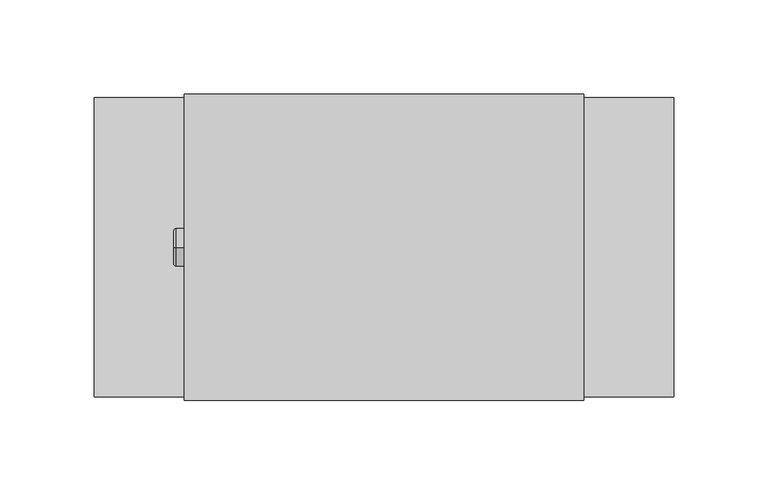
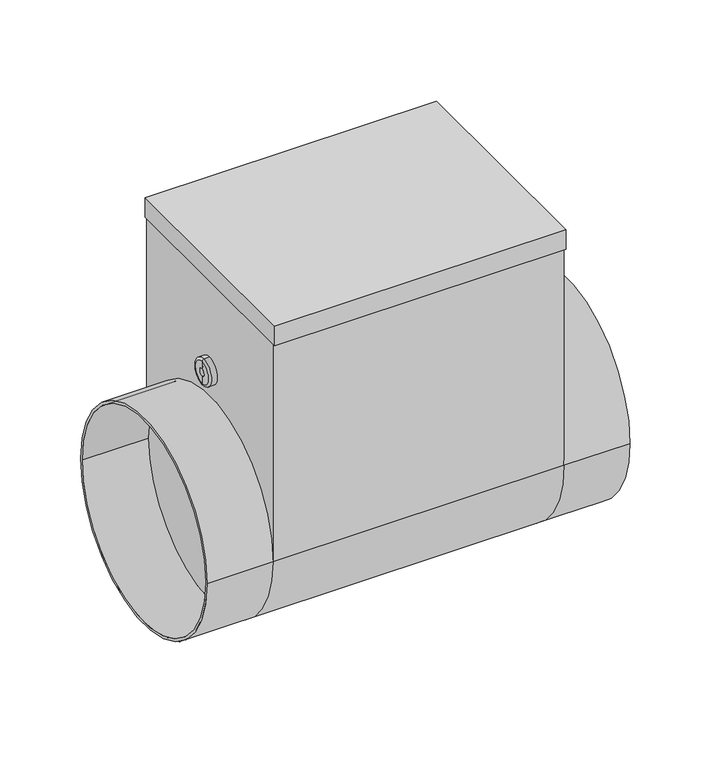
"""IFC4 building model written with IfcOpenShell, lengths in millimetres: proxy geometry, СВ_ВоздухонагревательЭлектрический_КанальныйКруглый_DN100-315_SKH-E : SKH-E-160/4,5."""

from ifc_helpers import new_model, si_unit, point, frame, origin, place, context, project, spatial, polyline, circle_curve, ellipse_curve, trimmed, outline, extrude, source, transform, mapped, element, save
from ifc_brep_helpers import plane_surface, cylinder_surface, revolved_surface, advanced_brep


def mechanical_equipment_b121b456(model_context):
    return source(origin(), model_context, "Body", "SolidModel", [
        extrude(outline(polyline([(106.0, -81.5), (-106.0, -81.5), (-106.0, 81.5), (106.0, 81.5), (106.0, -81.5)])), frame((0.0, 0.0, 167.5), z_axis=(0.0, 0.0, 1.0), x_axis=(1.0, 0.0, 0.0)), (0.0, 0.0, 1.0), 15.0),
        advanced_brep(
        [(-154.0, -79.5, 0.0), (-154.0, 79.5, 0.0), (-154.0, -77.5, 0.0), (-154.0, 77.5, 0.0), (-106.0, 77.5, 0.0), (-106.0, -77.5, 0.0), (-106.0, 79.5, 0.0), (-106.0, -79.5, 0.0), (106.0, -77.5, 0.0), (106.0, 77.5, 0.0), (106.0, -79.5, 167.5), (106.0, -79.5, 0.0), (106.0, 79.5, 0.0), (106.0, 79.5, 167.5), (-106.0, -79.5, 167.5), (-106.0, 79.5, 167.5), (154.0, -79.5, 0.0), (154.0, 79.5, 0.0), (154.0, -77.5, 0.0), (154.0, 77.5, 0.0)],
        [
            (0, 1, circle_curve(frame((-154.0, 0.0, 0.0), z_axis=(-1.0, 0.0, 0.0), x_axis=(0.0, 1.0, 0.0)), 79.5)),
            (1, 0, circle_curve(frame((-154.0, 0.0, 0.0), z_axis=(-1.0, 0.0, 0.0), x_axis=(0.0, 1.0, 0.0)), 79.5)),
            (2, 3, circle_curve(frame((-154.0, 0.0, 0.0), z_axis=(1.0, 0.0, 0.0), x_axis=(0.0, 1.0, 0.0)), 77.5)),
            (3, 2, circle_curve(frame((-154.0, 0.0, 0.0), z_axis=(1.0, 0.0, 0.0), x_axis=(0.0, 1.0, 0.0)), 77.5)),
            (3, 4),
            (4, 5, circle_curve(frame((-106.0, 0.0, 0.0), z_axis=(1.0, 0.0, 0.0), x_axis=(0.0, 1.0, 0.0)), 77.5)),
            (5, 2),
            (5, 4, circle_curve(frame((-106.0, 0.0, 0.0), z_axis=(1.0, 0.0, 0.0), x_axis=(0.0, 1.0, 0.0)), 77.5)),
            (1, 6),
            (6, 7, circle_curve(frame((-106.0, 0.0, 0.0), z_axis=(-1.0, 0.0, 0.0), x_axis=(0.0, 1.0, 0.0)), 79.5)),
            (7, 0),
            (7, 6, circle_curve(frame((-106.0, 0.0, 0.0), z_axis=(-1.0, 0.0, 0.0), x_axis=(0.0, 1.0, 0.0)), 79.5)),
            (8, 9, circle_curve(frame((106.0, 0.0, 0.0), z_axis=(1.0, 0.0, 0.0), x_axis=(0.0, 1.0, 0.0)), 77.5)),
            (9, 8, circle_curve(frame((106.0, 0.0, 0.0), z_axis=(1.0, 0.0, 0.0), x_axis=(0.0, 1.0, 0.0)), 77.5)),
            (10, 11),
            (11, 12, circle_curve(frame((106.0, 0.0, 0.0), z_axis=(-1.0, 0.0, 0.0), x_axis=(0.0, 1.0, 0.0)), 79.5)),
            (12, 13),
            (13, 10),
            (7, 14),
            (14, 15),
            (15, 6),
            (6, 12),
            (12, 11, circle_curve(frame((106.0, 0.0, 0.0), z_axis=(-1.0, 0.0, 0.0), x_axis=(0.0, 1.0, 0.0)), 79.5)),
            (11, 7),
            (16, 17, circle_curve(frame((154.0, 0.0, 0.0), z_axis=(1.0, 0.0, 0.0), x_axis=(0.0, 1.0, 0.0)), 79.5)),
            (17, 16, circle_curve(frame((154.0, 0.0, 0.0), z_axis=(1.0, 0.0, 0.0), x_axis=(0.0, 1.0, 0.0)), 79.5)),
            (18, 19, circle_curve(frame((154.0, 0.0, 0.0), z_axis=(-1.0, 0.0, 0.0), x_axis=(0.0, 1.0, 0.0)), 77.5)),
            (19, 18, circle_curve(frame((154.0, 0.0, 0.0), z_axis=(-1.0, 0.0, 0.0), x_axis=(0.0, 1.0, 0.0)), 77.5)),
            (18, 8),
            (9, 19),
            (16, 11),
            (12, 17),
            (10, 14),
            (15, 13),
        ],
        [
            plane_surface(frame((-154.0, 77.5, 0.0), z_axis=(-1.0, 0.0, 0.0), x_axis=(0.0, 0.0, 1.0))),
            revolved_surface(polyline([(-154.0, 77.5, 0.0), (-106.0, 77.5, 0.0)]), (-154.0, 0.0, 0.0), (-1.0, 0.0, 0.0)),
            cylinder_surface(frame((0.0, 0.0, 0.0), z_axis=(1.0, 0.0, 0.0), x_axis=(0.0, 1.0, 0.0)), 79.5),
            plane_surface(frame((106.0, 79.5, 0.0), z_axis=(1.0, 0.0, 0.0), x_axis=(0.0, -1.0, 0.0))),
            plane_surface(frame((-106.0, 79.5, 0.0), z_axis=(-1.0, 0.0, 0.0), x_axis=(0.0, 1.0, 0.0))),
            cylinder_surface(frame((-106.0, 0.0, 0.0), z_axis=(1.0, 0.0, 0.0), x_axis=(0.0, 1.0, 0.0)), 79.5),
            plane_surface(frame((154.0, 77.5, 0.0), z_axis=(1.0, 0.0, 0.0), x_axis=(0.0, 0.0, -1.0))),
            revolved_surface(polyline([(106.0, 77.5, 0.0), (154.0, 77.5, 0.0)]), (106.0, 0.0, 0.0), (-1.0, 0.0, 0.0)),
            plane_surface(frame((-106.0, -79.5, 167.5), z_axis=(0.0, -1.0, 0.0), x_axis=(-1.0, 0.0, 0.0))),
            plane_surface(frame((-106.0, 79.5, 167.5), z_axis=(0.0, 1.0, 0.0), x_axis=(1.0, 0.0, 0.0))),
            plane_surface(frame((106.0, -79.5, 167.5), z_axis=(0.0, 0.0, 1.0), x_axis=(0.0, 1.0, 0.0))),
        ],
        [
            (0, [[1, 2], [3, 4]]),
            (1, [[-4, 5, 6, 7]]),
            (1, [[-3, -7, 8, -5]]),
            (2, [[-2, 9, 10, 11]]),
            (2, [[-1, -11, 12, -9]]),
            (3, [[13, 14]]),
            (3, [[15, 16, 17, 18]]),
            (4, [[-8, -6]]),
            (4, [[19, 20, 21, -12]]),
            (5, [[-10, 22, 23, 24]]),
            (6, [[25, 26], [27, 28]]),
            (7, [[-27, 29, -14, 30]]),
            (7, [[-28, -30, -13, -29]]),
            (2, [[-25, 31, -23, 32]]),
            (2, [[-26, -32, -16, -31]]),
            (8, [[33, -19, -24, -15]]),
            (9, [[-17, -22, -21, 34]]),
            (10, [[-33, -18, -34, -20]]),
        ],
    ),
        advanced_brep(
        [(-110.2840134, 0.0, 89.5), (-110.2840134, 0.0, 109.5), (-106.0, 0.0, 109.5), (-106.0, 0.0, 89.5), (-111.7459771, 0.0, 90.9619637), (-111.7459771, 0.0, 108.0380363), (-111.7459771, 0.0, 96.3948071), (-111.7459771, 0.0, 102.6051929), (-109.4138357, 0.0, 96.3948071), (-109.4138357, 0.0, 102.6051929), (-109.4138357, 0.0, 99.5), (-106.0, 0.0, 99.5)],
        [
            (0, 1, circle_curve(frame((-110.2840134, 0.0, 99.5), z_axis=(1.0, 0.0, 0.0), x_axis=(0.0, 0.0, 1.0)), 10.0)),
            (1, 2),
            (2, 3, circle_curve(frame((-106.0, 0.0, 99.5), z_axis=(-1.0, 0.0, 0.0), x_axis=(0.0, 0.0, 1.0)), 10.0)),
            (3, 0),
            (1, 0, circle_curve(frame((-110.2840134, 0.0, 99.5), z_axis=(1.0, 0.0, 0.0), x_axis=(0.0, 0.0, 1.0)), 10.0)),
            (3, 2, circle_curve(frame((-106.0, 0.0, 99.5), z_axis=(-1.0, 0.0, 0.0), x_axis=(0.0, 0.0, 1.0)), 10.0)),
            (4, 5, circle_curve(frame((-111.7459771, 0.0, 99.5), z_axis=(1.0, 0.0, 0.0), x_axis=(0.0, 0.0, 1.0)), 8.5380363)),
            (5, 1, circle_curve(frame((-110.2840134, 0.0, 108.0380363), z_axis=(0.0, 1.0, 0.0), x_axis=(1.0, 0.0, 0.0)), 1.4619637)),
            (0, 4, circle_curve(frame((-110.2840134, 0.0, 90.9619637), z_axis=(0.0, 1.0, 0.0), x_axis=(1.0, 0.0, 0.0)), 1.4619637)),
            (5, 4, circle_curve(frame((-111.7459771, 0.0, 99.5), z_axis=(1.0, 0.0, 0.0), x_axis=(0.0, 0.0, 1.0)), 8.5380363)),
            (6, 7, circle_curve(frame((-111.7459771, 0.0, 99.5), z_axis=(1.0, 0.0, 0.0), x_axis=(0.0, 0.0, 1.0)), 3.1051929)),
            (7, 5),
            (4, 6),
            (7, 6, circle_curve(frame((-111.7459771, 0.0, 99.5), z_axis=(1.0, 0.0, 0.0), x_axis=(0.0, 0.0, 1.0)), 3.1051929)),
            (8, 9, circle_curve(frame((-109.4138357, 0.0, 99.5), z_axis=(1.0, 0.0, 0.0), x_axis=(0.0, 0.0, 1.0)), 3.1051929)),
            (9, 7),
            (6, 8),
            (9, 8, circle_curve(frame((-109.4138357, 0.0, 99.5), z_axis=(1.0, 0.0, 0.0), x_axis=(0.0, 0.0, 1.0)), 3.1051929)),
            (10, 9),
            (8, 10),
            (2, 11),
            (11, 3),
        ],
        [
            cylinder_surface(frame((-141.6635229, 0.0, 99.5), z_axis=(-1.0, 0.0, 0.0), x_axis=(0.0, 0.0, 1.0)), 10.0),
            revolved_surface(trimmed(ellipse_curve(frame((-110.2840134, 0.0, 108.0380363), z_axis=(0.0, -1.0, 0.0), x_axis=(1.0, 0.0, 0.0)), 1.4619637, 1.4619637), [point((-110.2840134, 0.0, 109.5))], [point((-111.7459771, 0.0, 108.0380363))], True, "CARTESIAN"), (-141.6635229, 0.0, 99.5), (-1.0, 0.0, 0.0)),
            plane_surface(frame((-111.7459771, 0.0, 99.5), z_axis=(-1.0, 0.0, 0.0), x_axis=(0.0, 0.0, 1.0))),
            revolved_surface(polyline([(-111.7459771, 0.0, 102.6051929), (-109.4138357, 0.0, 102.6051929)]), (-141.6635229, 0.0, 99.5), (-1.0, 0.0, 0.0)),
            plane_surface(frame((-109.4138357, 0.0, 99.5), z_axis=(-1.0, 0.0, 0.0), x_axis=(0.0, 0.0, 1.0))),
            plane_surface(frame((-106.0, 0.0, 99.5), z_axis=(1.0, 0.0, 0.0), x_axis=(0.0, 0.0, 1.0))),
        ],
        [
            (0, [[1, 2, 3, 4]]),
            (0, [[5, -4, 6, -2]]),
            (1, [[7, 8, -1, 9]]),
            (1, [[10, -9, -5, -8]]),
            (2, [[11, 12, -7, 13]]),
            (2, [[14, -13, -10, -12]]),
            (3, [[15, 16, -11, 17]]),
            (3, [[18, -17, -14, -16]]),
            (4, [[19, -15, 20]]),
            (4, [[-20, -18, -19]]),
            (5, [[-3, 21, 22]]),
            (5, [[-6, -22, -21]]),
        ],
    ),
    ])


if __name__ == "__main__":
    model = new_model("IFC4")
    model_context = context("Model", 3, world=origin())
    ifc_project = project(units=[si_unit("LENGTHUNIT", "METRE", prefix="MILLI")], contexts=[model_context])
    site = spatial("IfcSite", under=ifc_project)
    building = spatial("IfcBuilding", under=site)
    placement = place(None, origin())
    mechanical_equipment_shape = mechanical_equipment_b121b456(model_context)
    element("IfcBuildingElementProxy", 1, Name="СВ_ВоздухонагревательЭлектрический_КанальныйКруглый_DN100-315_SKH-E : SKH-E-160/4,5", ObjectType="СВ_ВоздухонагревательЭлектрический_КанальныйКруглый_DN100-315_SKH-E : SKH-E-160/4,5", at=placement, inside=building, context=model_context, shape_type="MappedRepresentation", body=[
        mapped(mechanical_equipment_shape, transform((0.0, 0.0, 0.0), x_axis=(1.0, 0.0, 0.0), y_axis=(0.0, 1.0, 0.0), z_axis=(0.0, 0.0, 1.0))),
    ])
    save(model, "model.ifc")
